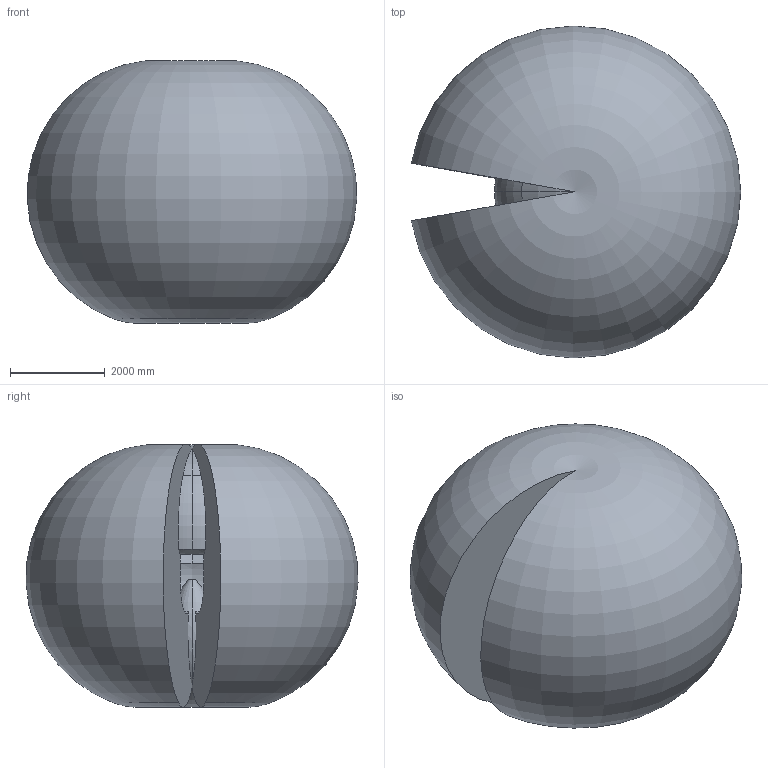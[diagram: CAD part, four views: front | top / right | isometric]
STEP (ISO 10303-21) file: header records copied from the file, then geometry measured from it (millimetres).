
FILE_DESCRIPTION (( 'STEP AP214' ), '1' );
FILE_NAME ('IRB6730S_210kg-350_OC_00_Working-envelope.step', '2026-05-26T10:31:59', ( '' ), ( '' ), 'SwSTEP 2.0', 'SolidWorks 2024', '' );
FILE_SCHEMA (( 'AUTOMOTIVE_DESIGN' ));
Length unit declared in the file: millimetre
Products named in the file (1): IRB6730S_210kg-350_OC_00_Working-envelope
Bounding box: 6952.42 x 7005.17 x 5547.47 mm (x, y, z)
Volume: 137753247890.4 mm3; surface area: 183600208.3 mm2
Topology: 1 solids, 1 shells, 23 faces, 65 edges, 32 vertices
Faces by surface type: torus 16, plane 6, bspline 1
Entity records: 753 total; most frequent: CARTESIAN_POINT 175, DIRECTION 144, ORIENTED_EDGE 106, AXIS2_PLACEMENT_3D 72, EDGE_CURVE 53, CIRCLE 49, VERTEX_POINT 32, EDGE_LOOP 23
